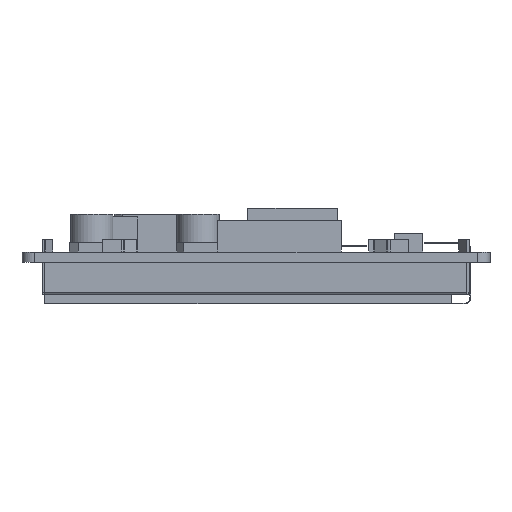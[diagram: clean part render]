
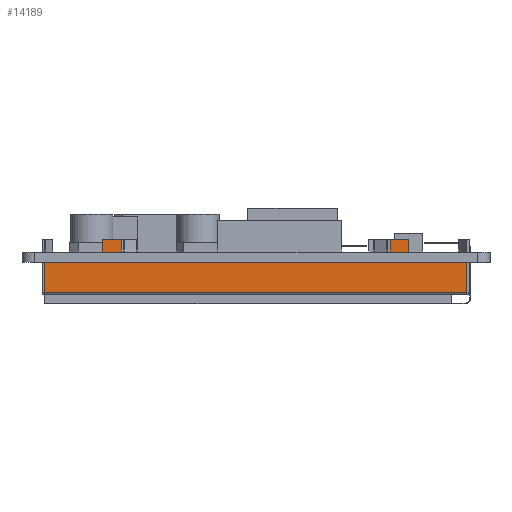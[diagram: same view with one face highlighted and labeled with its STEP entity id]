
A CAD part, left-side view. The second image highlights one B-rep face of the part: STEP entity #14189.
In plain terms, the highlighted planar face has unit normal (-1, 0, 0).
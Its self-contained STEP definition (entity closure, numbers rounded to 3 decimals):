
#5735=LINE('',#49654,#9595);
#5741=LINE('',#49668,#9601);
#5743=LINE('',#49672,#9603);
#5744=LINE('',#49675,#9604);
#5745=LINE('',#49677,#9605);
#5746=LINE('',#49679,#9606);
#5747=LINE('',#49681,#9607);
#5748=LINE('',#49683,#9608);
#5749=LINE('',#49684,#9609);
#5750=LINE('',#49686,#9610);
#5751=LINE('',#49688,#9611);
#5752=LINE('',#49690,#9612);
#5753=LINE('',#49692,#9613);
#5754=LINE('',#49693,#9614);
#5755=LINE('',#49695,#9615);
#5756=LINE('',#49697,#9616);
#9595=VECTOR('',#40722,1.);
#9601=VECTOR('',#40730,1.);
#9603=VECTOR('',#40734,1.);
#9604=VECTOR('',#40735,1.);
#9605=VECTOR('',#40736,1.);
#9606=VECTOR('',#40737,1.);
#9607=VECTOR('',#40738,1.);
#9608=VECTOR('',#40739,1.);
#9609=VECTOR('',#40740,1.);
#9610=VECTOR('',#40741,1.);
#9611=VECTOR('',#40742,1.);
#9612=VECTOR('',#40743,1.);
#9613=VECTOR('',#40744,1.);
#9614=VECTOR('',#40745,1.);
#9615=VECTOR('',#40746,1.);
#9616=VECTOR('',#40747,1.);
#11233=PLANE('',#33941);
#12689=FACE_OUTER_BOUND('',#16038,.T.);
#14189=ADVANCED_FACE('',(#12689),#11233,.F.);
#16038=EDGE_LOOP('',(#23655,#23656,#23657,#23658,#23659,#23660,#23661,#23662,
#23663,#23664,#23665,#23666,#23667,#23668,#23669,#23670));
#23655=ORIENTED_EDGE('',*,*,#31401,.T.);
#23656=ORIENTED_EDGE('',*,*,#31402,.F.);
#23657=ORIENTED_EDGE('',*,*,#31403,.F.);
#23658=ORIENTED_EDGE('',*,*,#31404,.T.);
#23659=ORIENTED_EDGE('',*,*,#31405,.T.);
#23660=ORIENTED_EDGE('',*,*,#31406,.T.);
#23661=ORIENTED_EDGE('',*,*,#31399,.T.);
#23662=ORIENTED_EDGE('',*,*,#31407,.F.);
#23663=ORIENTED_EDGE('',*,*,#31408,.T.);
#23664=ORIENTED_EDGE('',*,*,#31409,.F.);
#23665=ORIENTED_EDGE('',*,*,#31410,.F.);
#23666=ORIENTED_EDGE('',*,*,#31411,.T.);
#23667=ORIENTED_EDGE('',*,*,#31393,.T.);
#23668=ORIENTED_EDGE('',*,*,#31412,.F.);
#23669=ORIENTED_EDGE('',*,*,#31413,.F.);
#23670=ORIENTED_EDGE('',*,*,#31414,.T.);
#27305=VERTEX_POINT('',#49655);
#27306=VERTEX_POINT('',#49656);
#27311=VERTEX_POINT('',#49667);
#27312=VERTEX_POINT('',#49669);
#27313=VERTEX_POINT('',#49673);
#27314=VERTEX_POINT('',#49674);
#27315=VERTEX_POINT('',#49676);
#27316=VERTEX_POINT('',#49678);
#27317=VERTEX_POINT('',#49680);
#27318=VERTEX_POINT('',#49682);
#27319=VERTEX_POINT('',#49685);
#27320=VERTEX_POINT('',#49687);
#27321=VERTEX_POINT('',#49689);
#27322=VERTEX_POINT('',#49691);
#27323=VERTEX_POINT('',#49694);
#27324=VERTEX_POINT('',#49696);
#31393=EDGE_CURVE('',#27305,#27306,#5735,.T.);
#31399=EDGE_CURVE('',#27312,#27311,#5741,.T.);
#31401=EDGE_CURVE('',#27313,#27314,#5743,.T.);
#31402=EDGE_CURVE('',#27315,#27314,#5744,.T.);
#31403=EDGE_CURVE('',#27316,#27315,#5745,.T.);
#31404=EDGE_CURVE('',#27316,#27317,#5746,.T.);
#31405=EDGE_CURVE('',#27317,#27318,#5747,.T.);
#31406=EDGE_CURVE('',#27318,#27312,#5748,.T.);
#31407=EDGE_CURVE('',#27319,#27311,#5749,.T.);
#31408=EDGE_CURVE('',#27319,#27320,#5750,.T.);
#31409=EDGE_CURVE('',#27321,#27320,#5751,.T.);
#31410=EDGE_CURVE('',#27322,#27321,#5752,.T.);
#31411=EDGE_CURVE('',#27322,#27305,#5753,.T.);
#31412=EDGE_CURVE('',#27323,#27306,#5754,.T.);
#31413=EDGE_CURVE('',#27324,#27323,#5755,.T.);
#31414=EDGE_CURVE('',#27324,#27313,#5756,.T.);
#33941=AXIS2_PLACEMENT_3D('',#49698,#40748,#40749);
#40722=DIRECTION('',(0.,1.,0.));
#40730=DIRECTION('',(0.,1.,0.));
#40734=DIRECTION('',(0.,1.,0.));
#40735=DIRECTION('',(0.,0.,-1.));
#40736=DIRECTION('',(0.,-1.,0.));
#40737=DIRECTION('',(0.,0.,-1.));
#40738=DIRECTION('',(0.,1.,0.));
#40739=DIRECTION('',(0.,0.,-1.));
#40740=DIRECTION('',(0.,0.,-1.));
#40741=DIRECTION('',(0.,-1.,0.));
#40742=DIRECTION('',(0.,0.,-1.));
#40743=DIRECTION('',(0.,-1.,0.));
#40744=DIRECTION('',(0.,0.,-1.));
#40745=DIRECTION('',(0.,0.,1.));
#40746=DIRECTION('',(0.,1.,0.));
#40747=DIRECTION('',(0.,0.,1.));
#40748=DIRECTION('',(1.,0.,0.));
#40749=DIRECTION('',(0.,-1.,0.));
#49654=CARTESIAN_POINT('',(67.65,-14.395,-1.6));
#49655=CARTESIAN_POINT('',(67.65,43.765,-1.6));
#49656=CARTESIAN_POINT('',(67.65,53.005,-1.6));
#49667=CARTESIAN_POINT('',(67.65,40.765,-1.6));
#49668=CARTESIAN_POINT('',(67.65,-14.395,-1.6));
#49669=CARTESIAN_POINT('',(67.65,-2.155,-1.6));
#49672=CARTESIAN_POINT('',(67.65,-14.395,-1.6));
#49673=CARTESIAN_POINT('',(67.65,-14.395,-1.6));
#49674=CARTESIAN_POINT('',(67.65,-5.155,-1.6));
#49675=CARTESIAN_POINT('',(67.65,-5.155,0.));
#49676=CARTESIAN_POINT('',(67.65,-5.155,2.));
#49677=CARTESIAN_POINT('',(67.65,-2.19,2.));
#49678=CARTESIAN_POINT('',(67.65,-2.19,2.));
#49679=CARTESIAN_POINT('',(67.65,-2.19,2.));
#49680=CARTESIAN_POINT('',(67.65,-2.19,0.));
#49681=CARTESIAN_POINT('',(67.65,-5.155,0.));
#49682=CARTESIAN_POINT('',(67.65,-2.155,0.));
#49683=CARTESIAN_POINT('',(67.65,-2.155,0.));
#49684=CARTESIAN_POINT('',(67.65,40.765,0.));
#49685=CARTESIAN_POINT('',(67.65,40.765,0.));
#49686=CARTESIAN_POINT('',(67.65,43.765,0.));
#49687=CARTESIAN_POINT('',(67.65,40.754,0.));
#49688=CARTESIAN_POINT('',(67.65,40.754,2.));
#49689=CARTESIAN_POINT('',(67.65,40.754,2.));
#49690=CARTESIAN_POINT('',(67.65,43.765,2.));
#49691=CARTESIAN_POINT('',(67.65,43.765,2.));
#49692=CARTESIAN_POINT('',(67.65,43.765,0.));
#49693=CARTESIAN_POINT('',(67.65,53.005,-6.4));
#49694=CARTESIAN_POINT('',(67.65,53.005,-6.4));
#49695=CARTESIAN_POINT('',(67.65,-14.395,-6.4));
#49696=CARTESIAN_POINT('',(67.65,-14.395,-6.4));
#49697=CARTESIAN_POINT('',(67.65,-14.395,-6.4));
#49698=CARTESIAN_POINT('',(67.65,-14.395,-6.4));
